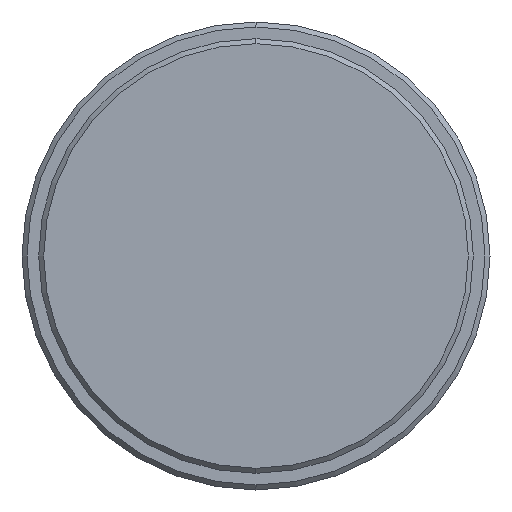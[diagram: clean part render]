
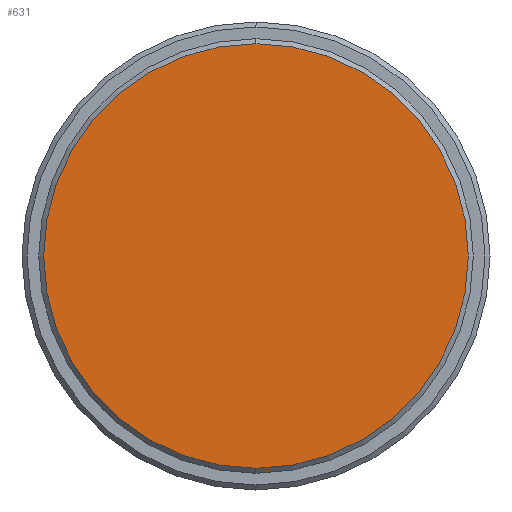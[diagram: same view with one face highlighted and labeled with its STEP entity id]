
A CAD part, left-side view. The second image highlights one B-rep face of the part: STEP entity #631.
In plain terms, the highlighted planar face has unit normal (-1, 0, 0).
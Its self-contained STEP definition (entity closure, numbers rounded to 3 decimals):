
#12 = CARTESIAN_POINT ( 'NONE',  ( 0., 0., 0. ) ) ;
#48 = DIRECTION ( 'NONE',  ( 0., 0., 1. ) ) ;
#101 = CARTESIAN_POINT ( 'NONE',  ( 0., 0., 12.7 ) ) ;
#132 = EDGE_LOOP ( 'NONE', ( #192, #518 ) ) ;
#155 = AXIS2_PLACEMENT_3D ( 'NONE', #164, #505, #569 ) ;
#164 = CARTESIAN_POINT ( 'NONE',  ( 0., 0., 0. ) ) ;
#191 = CIRCLE ( 'NONE', #605, 12.7 ) ;
#192 = ORIENTED_EDGE ( 'NONE', *, *, #530, .T. ) ;
#265 = CARTESIAN_POINT ( 'NONE',  ( 0., 0., 0. ) ) ;
#296 = DIRECTION ( 'NONE',  ( 0., 0., 1. ) ) ;
#318 = VERTEX_POINT ( 'NONE', #389 ) ;
#335 = DIRECTION ( 'NONE',  ( -1., 0., 0. ) ) ;
#349 = EDGE_CURVE ( 'NONE', #429, #318, #191, .T. ) ;
#389 = CARTESIAN_POINT ( 'NONE',  ( 0., 0., -12.7 ) ) ;
#401 = PLANE ( 'NONE',  #692 ) ;
#429 = VERTEX_POINT ( 'NONE', #101 ) ;
#505 = DIRECTION ( 'NONE',  ( -1., 0., 0. ) ) ;
#518 = ORIENTED_EDGE ( 'NONE', *, *, #349, .T. ) ;
#530 = EDGE_CURVE ( 'NONE', #318, #429, #703, .T. ) ;
#569 = DIRECTION ( 'NONE',  ( 0., 0., 1. ) ) ;
#605 = AXIS2_PLACEMENT_3D ( 'NONE', #265, #335, #48 ) ;
#631 = ADVANCED_FACE ( 'NONE', ( #648 ), #401, .T. ) ;
#648 = FACE_OUTER_BOUND ( 'NONE', #132, .T. ) ;
#681 = DIRECTION ( 'NONE',  ( -1., 0., 0. ) ) ;
#692 = AXIS2_PLACEMENT_3D ( 'NONE', #12, #681, #296 ) ;
#703 = CIRCLE ( 'NONE', #155, 12.7 ) ;
